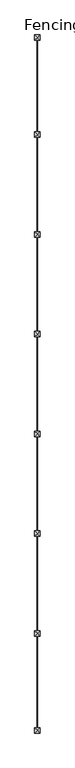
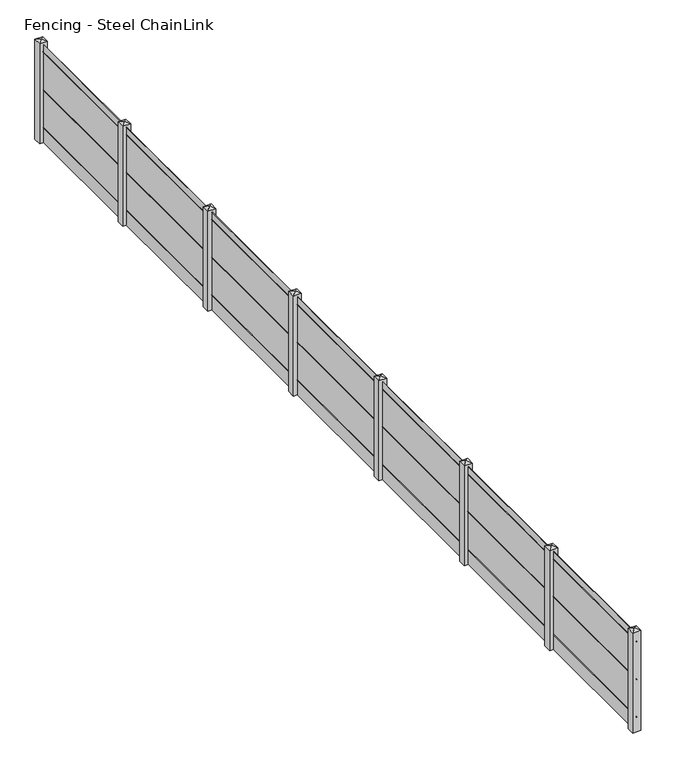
"""IFC4 building model written with IfcOpenShell, lengths in millimetres: railing geometry, Fencing - Steel ChainLink."""

import ifcopenshell
import ifcopenshell.guid

model = None  # the IFC model being written
_history = None  # IfcOwnerHistory: only IFC2X3 demands one
_inside = {}  # id of a spatial element -> (the spatial element, [elements in it])
_under = {}  # id of a project, library or spatial element -> (it, [spatial elements below it])
_declared = {}  # id of a project -> (the project, [libraries it declares])
_typed = {}  # id of a type object -> (the type object, [elements of that type])
_made_of = {}  # id of a material, layer set ... -> (it, [elements and type objects made of it])


def new_model(schema):
    """Start an empty IFC model of exactly this schema.

    Asked for "IFC4X3", IfcOpenShell would pick the latest addendum, in which some entities
    have other attributes; the version numbers below select the first issue.
    IFC2X3 requires an IfcOwnerHistory on every rooted entity: one is made here for all.
    """
    global model, _history
    if schema == "IFC4X3":
        model = ifcopenshell.file(schema_version=(4, 3, 0, 0))
    else:
        model = ifcopenshell.file(schema=schema)
    _inside.clear()
    _under.clear()
    _declared.clear()
    _typed.clear()
    _made_of.clear()
    _history = None
    if model.schema == "IFC2X3":
        org = make("IfcOrganization", Name="unknown")
        user = make(
            "IfcPersonAndOrganization",
            ThePerson=make("IfcPerson", FamilyName="unknown"),
            TheOrganization=org,
        )
        app = make(
            "IfcApplication",
            ApplicationDeveloper=org,
            Version="unknown",
            ApplicationFullName="unknown",
            ApplicationIdentifier="unknown",
        )
        _history = make(
            "IfcOwnerHistory",
            OwningUser=user,
            OwningApplication=app,
            ChangeAction="ADDED",
            CreationDate=0,
        )
    return model


def make(cls, **values):
    """One entity of the class cls with the attributes given. An attribute that is None is left unset."""
    return model.create_entity(
        cls, **{name: value for name, value in values.items() if value is not None}
    )


def rooted(cls, **values):
    """An entity with a GlobalId (a new one), such as an element, a storey or a relation."""
    return make(cls, GlobalId=ifcopenshell.guid.new(), OwnerHistory=_history, **values)


def si_unit(unit_type, name, prefix=None):
    """IfcSIUnit, for example si_unit("LENGTHUNIT", "METRE", prefix="MILLI")."""
    return make("IfcSIUnit", UnitType=unit_type, Prefix=prefix, Name=name)


def assignment(units):
    """IfcUnitAssignment: the units of a project."""
    return None if units is None else make("IfcUnitAssignment", Units=units)


def point(xyz):
    """IfcCartesianPoint."""
    return None if xyz is None else make("IfcCartesianPoint", Coordinates=xyz)


def direction(xyz):
    """IfcDirection."""
    return None if xyz is None else make("IfcDirection", DirectionRatios=xyz)


def frame(location, z_axis=None, x_axis=None):
    """IfcAxis2Placement3D, a coordinate frame: its origin and axes. An axis left out is left unset."""
    return make(
        "IfcAxis2Placement3D",
        Location=point(location),
        Axis=direction(z_axis),
        RefDirection=direction(x_axis),
    )


def frame_2d(location, x_axis=None):
    """IfcAxis2Placement2D, a coordinate frame in the plane: its origin and x axis."""
    return make(
        "IfcAxis2Placement2D", Location=point(location), RefDirection=direction(x_axis)
    )


def origin():
    """The frame at (0, 0, 0) with its axes left unset."""
    return frame((0.0, 0.0, 0.0))


def origin_with_axes():
    """The frame at (0, 0, 0) with the z axis (0, 0, 1) and the x axis (1, 0, 0) written out."""
    return frame((0.0, 0.0, 0.0), z_axis=(0.0, 0.0, 1.0), x_axis=(1.0, 0.0, 0.0))


def place(relative_to, where):
    """IfcLocalPlacement: puts the frame where relative to a parent placement (None: the world)."""
    return make(
        "IfcLocalPlacement", PlacementRelTo=relative_to, RelativePlacement=where
    )


def context(
    kind, dimensions, precision=None, world=None, true_north=None, identifier=None
):
    """IfcGeometricRepresentationContext, for example the 3D "Model" context."""
    return make(
        "IfcGeometricRepresentationContext",
        ContextIdentifier=identifier,
        ContextType=kind,
        CoordinateSpaceDimension=dimensions,
        Precision=precision,
        WorldCoordinateSystem=world,
        TrueNorth=true_north,
    )


def project(units=None, contexts=None):
    """IfcProject with its units and contexts."""
    return rooted(
        "IfcProject",
        Name="project",
        RepresentationContexts=contexts,
        UnitsInContext=assignment(units),
    )


def spatial(cls, under=None, at=None, **own):
    """A site, building, storey or space (cls), placed at a placement, below another one or the project."""
    s = rooted(cls, ObjectPlacement=at, **own)
    if under is not None:
        _under.setdefault(under.id(), (under, []))[1].append(s)
    return s


def polyline(points):
    """IfcPolyline through the points."""
    return make("IfcPolyline", Points=[point(p) for p in points])


def circle_curve(where, radius):
    """IfcCircle in the frame where."""
    return make("IfcCircle", Position=where, Radius=radius)


def trimmed(basis, trim1, trim2, sense, master):
    """IfcTrimmedCurve: the piece of a basis curve between two trims."""
    return make(
        "IfcTrimmedCurve",
        BasisCurve=basis,
        Trim1=trim1,
        Trim2=trim2,
        SenseAgreement=sense,
        MasterRepresentation=master,
    )


def segment(curve, same_sense, transition):
    """IfcCompositeCurveSegment."""
    return make(
        "IfcCompositeCurveSegment",
        Transition=transition,
        SameSense=same_sense,
        ParentCurve=curve,
    )


def composite_curve(segments, self_intersect=None):
    """IfcCompositeCurve: segments joined end to end."""
    return make("IfcCompositeCurve", Segments=segments, SelfIntersect=self_intersect)


def outline(outer, holes=None, kind="AREA"):
    """IfcArbitraryClosedProfileDef: a profile drawn as a closed curve; with holes, ...WithVoids."""
    if holes is None:
        return make("IfcArbitraryClosedProfileDef", ProfileType=kind, OuterCurve=outer)
    return make(
        "IfcArbitraryProfileDefWithVoids",
        ProfileType=kind,
        OuterCurve=outer,
        InnerCurves=holes,
    )


def extrude(swept, where, along, depth):
    """IfcExtrudedAreaSolid: the profile swept, set in the frame where, extruded along a direction by depth."""
    return make(
        "IfcExtrudedAreaSolid",
        SweptArea=swept,
        Position=where,
        ExtrudedDirection=direction(along),
        Depth=depth,
    )


def faces_of(points, faces, orient=None, outer=None):
    """IfcFace entities. A face is a list of loops; a loop is a list of indices into points, from 0.

    orient and outer hold one flag for each loop. By default every Orientation is true, the
    first loop of a face is its IfcFaceOuterBound and the others are IfcFaceBound.
    """
    made = []
    for i, loops in enumerate(faces):
        bounds = []
        for j, loop in enumerate(loops):
            is_outer = j == 0 if outer is None else outer[i][j]
            bounds.append(
                make(
                    "IfcFaceOuterBound" if is_outer else "IfcFaceBound",
                    Bound=make("IfcPolyLoop", Polygon=[points[k] for k in loop]),
                    Orientation=True if orient is None else orient[i][j],
                )
            )
        made.append(make("IfcFace", Bounds=bounds))
    return made


def faceted_brep(points, faces, orient=None, outer=None, voids=None):
    """IfcFacetedBrep: a solid bounded by flat faces; with voids (closed shells), ...WithVoids."""
    shared = [point(p) for p in points]
    hull = make("IfcClosedShell", CfsFaces=faces_of(shared, faces, orient, outer))
    if voids is None:
        return make("IfcFacetedBrep", Outer=hull)
    return make(
        "IfcFacetedBrepWithVoids",
        Outer=hull,
        Voids=[
            make(cls, CfsFaces=faces_of(shared, fs, o, b)) for cls, fs, o, b in voids
        ],
    )


def shape(context_of_items, identifier, shape_type, items):
    """IfcShapeRepresentation: the items that make up one representation, for example the "Body"."""
    return make(
        "IfcShapeRepresentation",
        ContextOfItems=context_of_items,
        RepresentationIdentifier=identifier,
        RepresentationType=shape_type,
        Items=items,
    )


def source(mapping_origin, context_of_items, identifier, shape_type, items):
    """IfcRepresentationMap: a shape defined once, which mapped items show again and again."""
    return make(
        "IfcRepresentationMap",
        MappingOrigin=mapping_origin,
        MappedRepresentation=shape(context_of_items, identifier, shape_type, items),
    )


def transform(
    local_origin,
    x_axis=None,
    y_axis=None,
    z_axis=None,
    scale=None,
    scale2=None,
    scale3=None,
    uniform=True,
):
    """IfcCartesianTransformationOperator3D, or its non-uniform kind. x_axis, y_axis, z_axis: its Axis1, 2, 3."""
    if uniform:
        return make(
            "IfcCartesianTransformationOperator3D",
            Axis1=direction(x_axis),
            Axis2=direction(y_axis),
            LocalOrigin=point(local_origin),
            Scale=scale,
            Axis3=direction(z_axis),
        )
    return make(
        "IfcCartesianTransformationOperator3DnonUniform",
        Axis1=direction(x_axis),
        Axis2=direction(y_axis),
        LocalOrigin=point(local_origin),
        Scale=scale,
        Axis3=direction(z_axis),
        Scale2=scale2,
        Scale3=scale3,
    )


def mapped(mapping_source, mapping_target):
    """IfcMappedItem: shows the shape of a source again, moved by a transform."""
    return make(
        "IfcMappedItem", MappingSource=mapping_source, MappingTarget=mapping_target
    )


def made_of(thing, what):
    """Note that an element or type object is made of a material, layer set ...; save() writes the relation."""
    if what is not None:
        _made_of.setdefault(what.id(), (what, []))[1].append(thing)
    return thing


def element(
    cls,
    number,
    at=None,
    inside=None,
    cuts=None,
    type_object=None,
    material=None,
    context=None,
    identifier="Body",
    shape_type=None,
    held_by="IfcProductDefinitionShape",
    body=None,
    shapes=None,
    **own,
):
    """One element of the class cls, such as IfcWall. Its Tag is "e" and its number.

    at: its placement. inside: the storey or other place that contains it. cuts: it is an
    opening in that element (IfcRelVoidsElement). A single representation is given by context,
    identifier, shape_type and body (its items); several are given by shapes. held_by: the class
    of the entity that holds the representations. save() writes the other relations.
    """
    e = rooted(cls, Tag="e%d" % number, ObjectPlacement=at, **own)
    if body is not None:
        shapes = [shape(context, identifier, shape_type, body)]
    if shapes is not None:
        e.Representation = make(held_by, Representations=shapes)
    if inside is not None:
        _inside.setdefault(inside.id(), (inside, []))[1].append(e)
    if cuts is not None:
        rooted(
            "IfcRelVoidsElement", RelatingBuildingElement=cuts, RelatedOpeningElement=e
        )
    if type_object is not None:
        _typed.setdefault(type_object.id(), (type_object, []))[1].append(e)
    return made_of(e, material)


def aggregate(whole, parts):
    """IfcRelAggregates: a whole, such as a stair, and the parts it consists of."""
    return rooted("IfcRelAggregates", RelatingObject=whole, RelatedObjects=parts)


def save(model, path):
    """Write the relations noted so far, then the file.

    IfcRelAggregates (storeys below a building ...), IfcRelContainedInSpatialStructure (elements
    in a storey), IfcRelDefinesByType, IfcRelAssociatesMaterial and IfcRelDeclares: one each for
    every whole, place, type object, material and project.
    """
    for whole, parts in _under.values():
        aggregate(whole, parts)
    for where, things in _inside.values():
        rooted(
            "IfcRelContainedInSpatialStructure",
            RelatedElements=things,
            RelatingStructure=where,
        )
    for kind, things in _typed.values():
        rooted("IfcRelDefinesByType", RelatedObjects=things, RelatingType=kind)
    for what, things in _made_of.values():
        rooted("IfcRelAssociatesMaterial", RelatedObjects=things, RelatingMaterial=what)
    for by, libraries in _declared.values():
        rooted("IfcRelDeclares", RelatingContext=by, RelatedDefinitions=libraries)
    model.write(path)


def fencing_steel_chainlink_847a34bb(model_context):
    return source(origin(), model_context, "Body", "SolidModel", [
        extrude(outline(composite_curve([segment(trimmed(circle_curve(frame_2d((1197.0, 48898.4324334)), 3.0), [point((1197.0, 48895.4324334))], [point((1197.0, 48901.4324334))], False, "CARTESIAN"), True, "CONTINUOUS"), segment(trimmed(circle_curve(frame_2d((1197.0, 48898.4324334)), 3.0), [point((1197.0, 48901.4324334))], [point((1197.0, 48895.4324334))], False, "CARTESIAN"), True, "CONTINUOUS")], self_intersect=False)), frame((0.0, -56479.0868221, 0.0), z_axis=(0.0, 1.0, 0.0), x_axis=(0.0, 0.0, 1.0)), (0.0, 0.0, 1.0), 13000.0),
        extrude(outline(composite_curve([segment(trimmed(circle_curve(frame_2d((697.0, 48898.4324334)), 3.0), [point((697.0, 48895.4324334))], [point((697.0, 48901.4324334))], False, "CARTESIAN"), True, "CONTINUOUS"), segment(trimmed(circle_curve(frame_2d((697.0, 48898.4324334)), 3.0), [point((697.0, 48901.4324334))], [point((697.0, 48895.4324334))], False, "CARTESIAN"), True, "CONTINUOUS")], self_intersect=False)), frame((0.0, -56479.0868221, 0.0), z_axis=(0.0, 1.0, 0.0), x_axis=(0.0, 0.0, 1.0)), (0.0, 0.0, 1.0), 13000.0),
        extrude(outline(composite_curve([segment(trimmed(circle_curve(frame_2d((197.0, 48898.4324334)), 3.0), [point((197.0, 48895.4324334))], [point((197.0, 48901.4324334))], False, "CARTESIAN"), True, "CONTINUOUS"), segment(trimmed(circle_curve(frame_2d((197.0, 48898.4324334)), 3.0), [point((197.0, 48901.4324334))], [point((197.0, 48895.4324334))], False, "CARTESIAN"), True, "CONTINUOUS")], self_intersect=False)), frame((0.0, -56479.0868221, 0.0), z_axis=(0.0, 1.0, 0.0), x_axis=(0.0, 0.0, 1.0)), (0.0, 0.0, 1.0), 13000.0),
        extrude(outline(polyline([(48896.9324334, -45307.6582506), (48896.9324334, -43507.6582506), (48899.9324334, -43507.6582506), (48899.9324334, -45307.6582506), (48896.9324334, -45307.6582506)])), origin_with_axes(), (0.0, 0.0, 1.0), 1300.0),
        faceted_brep([(48848.4324334, -45286.2296792, 0.0), (48948.4324334, -45286.2296792, 0.0), (48948.4324334, -45386.2296792, 0.0), (48848.4324334, -45386.2296792, 0.0), (48848.4324334, -45386.2296792, 1327.8503862), (48848.4324334, -45286.2296792, 1327.8503862), (48948.4324334, -45386.2296792, 1327.8503862), (48948.4324334, -45286.2296792, 1327.8503862), (48898.4324334, -45336.2296792, 1350.0)], [[[0, 1, 2, 3]], [[0, 3, 4, 5]], [[3, 2, 6, 4]], [[2, 1, 7, 6]], [[1, 0, 5, 7]], [[5, 4, 8]], [[6, 7, 8]], [[7, 5, 8]], [[4, 6, 8]]]),
        extrude(outline(polyline([(48896.9324334, -47164.8011078), (48896.9324334, -45364.8011078), (48899.9324334, -45364.8011078), (48899.9324334, -47164.8011078), (48896.9324334, -47164.8011078)])), origin_with_axes(), (0.0, 0.0, 1.0), 1300.0),
        faceted_brep([(48848.4324334, -47143.3725364, 0.0), (48948.4324334, -47143.3725364, 0.0), (48948.4324334, -47243.3725364, 0.0), (48848.4324334, -47243.3725364, 0.0), (48848.4324334, -47243.3725364, 1327.8503862), (48848.4324334, -47143.3725364, 1327.8503862), (48948.4324334, -47243.3725364, 1327.8503862), (48948.4324334, -47143.3725364, 1327.8503862), (48898.4324334, -47193.3725364, 1350.0)], [[[0, 1, 2, 3]], [[0, 3, 4, 5]], [[3, 2, 6, 4]], [[2, 1, 7, 6]], [[1, 0, 5, 7]], [[5, 4, 8]], [[6, 7, 8]], [[7, 5, 8]], [[4, 6, 8]]]),
        extrude(outline(polyline([(48896.9324334, -49021.9439649), (48896.9324334, -47221.9439649), (48899.9324334, -47221.9439649), (48899.9324334, -49021.9439649), (48896.9324334, -49021.9439649)])), origin_with_axes(), (0.0, 0.0, 1.0), 1300.0),
        faceted_brep([(48848.4324334, -49000.5153935, 0.0), (48948.4324334, -49000.5153935, 0.0), (48948.4324334, -49100.5153935, 0.0), (48848.4324334, -49100.5153935, 0.0), (48848.4324334, -49100.5153935, 1327.8503862), (48848.4324334, -49000.5153935, 1327.8503862), (48948.4324334, -49100.5153935, 1327.8503862), (48948.4324334, -49000.5153935, 1327.8503862), (48898.4324334, -49050.5153935, 1350.0)], [[[0, 1, 2, 3]], [[0, 3, 4, 5]], [[3, 2, 6, 4]], [[2, 1, 7, 6]], [[1, 0, 5, 7]], [[5, 4, 8]], [[6, 7, 8]], [[7, 5, 8]], [[4, 6, 8]]]),
        extrude(outline(polyline([(48896.9324334, -50879.0868221), (48896.9324334, -49079.0868221), (48899.9324334, -49079.0868221), (48899.9324334, -50879.0868221), (48896.9324334, -50879.0868221)])), origin_with_axes(), (0.0, 0.0, 1.0), 1300.0),
        faceted_brep([(48848.4324334, -50857.6582506, 0.0), (48948.4324334, -50857.6582506, 0.0), (48948.4324334, -50957.6582506, 0.0), (48848.4324334, -50957.6582506, 0.0), (48848.4324334, -50957.6582506, 1327.8503862), (48848.4324334, -50857.6582506, 1327.8503862), (48948.4324334, -50957.6582506, 1327.8503862), (48948.4324334, -50857.6582506, 1327.8503862), (48898.4324334, -50907.6582506, 1350.0)], [[[0, 1, 2, 3]], [[0, 3, 4, 5]], [[3, 2, 6, 4]], [[2, 1, 7, 6]], [[1, 0, 5, 7]], [[5, 4, 8]], [[6, 7, 8]], [[7, 5, 8]], [[4, 6, 8]]]),
        extrude(outline(polyline([(48896.9324334, -52736.2296792), (48896.9324334, -50936.2296792), (48899.9324334, -50936.2296792), (48899.9324334, -52736.2296792), (48896.9324334, -52736.2296792)])), origin_with_axes(), (0.0, 0.0, 1.0), 1300.0),
        faceted_brep([(48848.4324334, -52714.8011078, 0.0), (48948.4324334, -52714.8011078, 0.0), (48948.4324334, -52814.8011078, 0.0), (48848.4324334, -52814.8011078, 0.0), (48848.4324334, -52814.8011078, 1327.8503862), (48848.4324334, -52714.8011078, 1327.8503862), (48948.4324334, -52814.8011078, 1327.8503862), (48948.4324334, -52714.8011078, 1327.8503862), (48898.4324334, -52764.8011078, 1350.0)], [[[0, 1, 2, 3]], [[0, 3, 4, 5]], [[3, 2, 6, 4]], [[2, 1, 7, 6]], [[1, 0, 5, 7]], [[5, 4, 8]], [[6, 7, 8]], [[7, 5, 8]], [[4, 6, 8]]]),
        extrude(outline(polyline([(48896.9324334, -54593.3725364), (48896.9324334, -52793.3725364), (48899.9324334, -52793.3725364), (48899.9324334, -54593.3725364), (48896.9324334, -54593.3725364)])), origin_with_axes(), (0.0, 0.0, 1.0), 1300.0),
        faceted_brep([(48848.4324334, -54571.9439649, 0.0), (48948.4324334, -54571.9439649, 0.0), (48948.4324334, -54671.9439649, 0.0), (48848.4324334, -54671.9439649, 0.0), (48848.4324334, -54671.9439649, 1327.8503862), (48848.4324334, -54571.9439649, 1327.8503862), (48948.4324334, -54671.9439649, 1327.8503862), (48948.4324334, -54571.9439649, 1327.8503862), (48898.4324334, -54621.9439649, 1350.0)], [[[0, 1, 2, 3]], [[0, 3, 4, 5]], [[3, 2, 6, 4]], [[2, 1, 7, 6]], [[1, 0, 5, 7]], [[5, 4, 8]], [[6, 7, 8]], [[7, 5, 8]], [[4, 6, 8]]]),
        extrude(outline(polyline([(48896.9324334, -56450.5153935), (48896.9324334, -54650.5153935), (48899.9324334, -54650.5153935), (48899.9324334, -56450.5153935), (48896.9324334, -56450.5153935)])), origin_with_axes(), (0.0, 0.0, 1.0), 1300.0),
        faceted_brep([(48848.4324334, -43479.0868221, 0.0), (48948.4324334, -43479.0868221, 0.0), (48948.4324334, -43579.0868221, 0.0), (48848.4324334, -43579.0868221, 0.0), (48848.4324334, -43579.0868221, 1327.8503862), (48848.4324334, -43479.0868221, 1327.8503862), (48948.4324334, -43579.0868221, 1327.8503862), (48948.4324334, -43479.0868221, 1327.8503862), (48898.4324334, -43529.0868221, 1350.0)], [[[0, 1, 2, 3]], [[0, 3, 4, 5]], [[3, 2, 6, 4]], [[2, 1, 7, 6]], [[1, 0, 5, 7]], [[5, 4, 8]], [[6, 7, 8]], [[7, 5, 8]], [[4, 6, 8]]]),
        faceted_brep([(48848.4324334, -56379.0868221, 0.0), (48948.4324334, -56379.0868221, 0.0), (48948.4324334, -56479.0868221, 0.0), (48848.4324334, -56479.0868221, 0.0), (48848.4324334, -56479.0868221, 1327.8503862), (48848.4324334, -56379.0868221, 1327.8503862), (48948.4324334, -56479.0868221, 1327.8503862), (48948.4324334, -56379.0868221, 1327.8503862), (48898.4324334, -56429.0868221, 1350.0)], [[[0, 1, 2, 3]], [[0, 3, 4, 5]], [[3, 2, 6, 4]], [[2, 1, 7, 6]], [[1, 0, 5, 7]], [[5, 4, 8]], [[6, 7, 8]], [[7, 5, 8]], [[4, 6, 8]]]),
    ])


if __name__ == "__main__":
    model = new_model("IFC4")
    model_context = context("Model", 3, world=origin())
    ifc_project = project(units=[si_unit("LENGTHUNIT", "METRE", prefix="MILLI")], contexts=[model_context])
    site = spatial("IfcSite", under=ifc_project)
    building = spatial("IfcBuilding", under=site)
    placement = place(None, origin())
    fencing_steel_chainlink_shape = fencing_steel_chainlink_847a34bb(model_context)
    element("IfcRailing", 1, ObjectType="Fencing - Steel ChainLink", at=placement, inside=building, context=model_context, shape_type="MappedRepresentation", body=[
        mapped(fencing_steel_chainlink_shape, transform((0.0, 0.0, 0.0), x_axis=(1.0, 0.0, 0.0), y_axis=(0.0, 1.0, 0.0), z_axis=(0.0, 0.0, 1.0))),
    ])
    save(model, "model.ifc")
